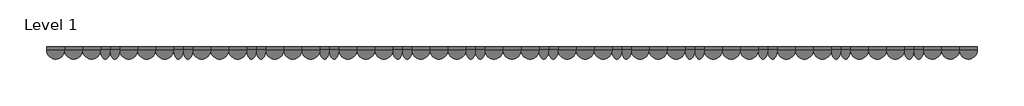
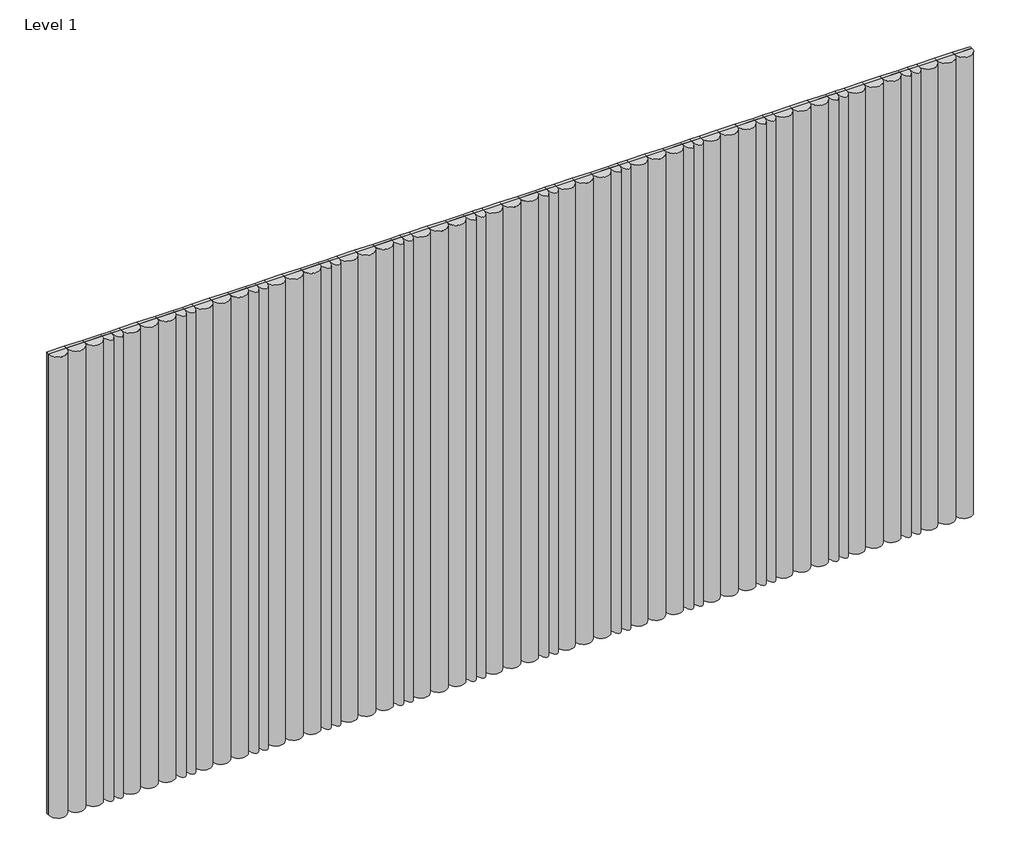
# One storey: 63 proxies.
"""IFC4 building model written with IfcOpenShell, lengths in millimetres."""

from ifc_helpers import new_model, si_unit, origin, place, context, project, spatial, transform, mapped, element, save
from components import specialty_equipment_105ff39a, specialty_equipment_0e2ca00c

model = new_model("IFC4")

# Units and contexts
model_context = context("Model", 3, world=origin())
ifc_project = project(units=[si_unit("LENGTHUNIT", "METRE", prefix="MILLI")], contexts=[model_context])

# Site, building, storey
site = spatial("IfcSite", under=ifc_project)
building = spatial("IfcBuilding", under=site)
storey = spatial("IfcBuildingStorey", under=building, Name="Level 1", Elevation=0.0)

# Proxies
placement = place(None, origin())
specialty_equipment_shape = specialty_equipment_105ff39a(model_context)
element("IfcBuildingElementProxy", 1, Name="Spinneybeck_ARO Plank 1 : A - 4 1/4 in (10.8 cm)", ObjectType="Spinneybeck_ARO Plank 1 : A - 4 1/4 in (10.8 cm)", at=placement, inside=storey, context=model_context, shape_type="MappedRepresentation", body=[
    mapped(specialty_equipment_shape, transform((-18900.5881386, 525.5178844, -8.8724664), x_axis=(1.0, 0.0, 0.0), y_axis=(0.0, 0.0, 1.0), z_axis=(0.0, -1.0, 0.0))),
])
element("IfcBuildingElementProxy", 2, Name="Spinneybeck_ARO Plank 1 : A - 4 1/4 in (10.8 cm)", ObjectType="Spinneybeck_ARO Plank 1 : A - 4 1/4 in (10.8 cm)", at=placement, inside=storey, context=model_context, shape_type="MappedRepresentation", body=[
    mapped(specialty_equipment_shape, transform((-18792.6381386, 525.5178844, -8.8724664), x_axis=(1.0, 0.0, 0.0), y_axis=(0.0, 0.0, 1.0), z_axis=(0.0, -1.0, 0.0))),
])
element("IfcBuildingElementProxy", 3, Name="Spinneybeck_ARO Plank 1 : A - 4 1/4 in (10.8 cm)", ObjectType="Spinneybeck_ARO Plank 1 : A - 4 1/4 in (10.8 cm)", at=placement, inside=storey, context=model_context, shape_type="MappedRepresentation", body=[
    mapped(specialty_equipment_shape, transform((-18684.6881386, 525.5178844, -8.8724664), x_axis=(1.0, 0.0, 0.0), y_axis=(0.0, 0.0, 1.0), z_axis=(0.0, -1.0, 0.0))),
])
element("IfcBuildingElementProxy", 4, Name="Spinneybeck_ARO Plank 1 : A - 4 1/4 in (10.8 cm)", ObjectType="Spinneybeck_ARO Plank 1 : A - 4 1/4 in (10.8 cm)", at=placement, inside=storey, context=model_context, shape_type="MappedRepresentation", body=[
    mapped(specialty_equipment_shape, transform((-18462.4381386, 525.5178844, -8.8724664), x_axis=(1.0, 0.0, 0.0), y_axis=(0.0, 0.0, 1.0), z_axis=(0.0, -1.0, 0.0))),
])
element("IfcBuildingElementProxy", 5, Name="Spinneybeck_ARO Plank 1 : A - 4 1/4 in (10.8 cm)", ObjectType="Spinneybeck_ARO Plank 1 : A - 4 1/4 in (10.8 cm)", at=placement, inside=storey, context=model_context, shape_type="MappedRepresentation", body=[
    mapped(specialty_equipment_shape, transform((-18354.4881386, 525.5178844, -8.8724664), x_axis=(1.0, 0.0, 0.0), y_axis=(0.0, 0.0, 1.0), z_axis=(0.0, -1.0, 0.0))),
])
element("IfcBuildingElementProxy", 6, Name="Spinneybeck_ARO Plank 1 : A - 4 1/4 in (10.8 cm)", ObjectType="Spinneybeck_ARO Plank 1 : A - 4 1/4 in (10.8 cm)", at=placement, inside=storey, context=model_context, shape_type="MappedRepresentation", body=[
    mapped(specialty_equipment_shape, transform((-18246.5381386, 525.5178844, -8.8724664), x_axis=(1.0, 0.0, 0.0), y_axis=(0.0, 0.0, 1.0), z_axis=(0.0, -1.0, 0.0))),
])
element("IfcBuildingElementProxy", 7, Name="Spinneybeck_ARO Plank 1 : A - 4 1/4 in (10.8 cm)", ObjectType="Spinneybeck_ARO Plank 1 : A - 4 1/4 in (10.8 cm)", at=placement, inside=storey, context=model_context, shape_type="MappedRepresentation", body=[
    mapped(specialty_equipment_shape, transform((-18024.2881386, 525.5178844, -8.8724664), x_axis=(1.0, 0.0, 0.0), y_axis=(0.0, 0.0, 1.0), z_axis=(0.0, -1.0, 0.0))),
])
element("IfcBuildingElementProxy", 8, Name="Spinneybeck_ARO Plank 1 : A - 4 1/4 in (10.8 cm)", ObjectType="Spinneybeck_ARO Plank 1 : A - 4 1/4 in (10.8 cm)", at=placement, inside=storey, context=model_context, shape_type="MappedRepresentation", body=[
    mapped(specialty_equipment_shape, transform((-17916.3381386, 525.5178844, -8.8724664), x_axis=(1.0, 0.0, 0.0), y_axis=(0.0, 0.0, 1.0), z_axis=(0.0, -1.0, 0.0))),
])
element("IfcBuildingElementProxy", 9, Name="Spinneybeck_ARO Plank 1 : A - 4 1/4 in (10.8 cm)", ObjectType="Spinneybeck_ARO Plank 1 : A - 4 1/4 in (10.8 cm)", at=placement, inside=storey, context=model_context, shape_type="MappedRepresentation", body=[
    mapped(specialty_equipment_shape, transform((-17808.3881386, 525.5178844, -8.8724664), x_axis=(1.0, 0.0, 0.0), y_axis=(0.0, 0.0, 1.0), z_axis=(0.0, -1.0, 0.0))),
])
element("IfcBuildingElementProxy", 10, Name="Spinneybeck_ARO Plank 1 : A - 4 1/4 in (10.8 cm)", ObjectType="Spinneybeck_ARO Plank 1 : A - 4 1/4 in (10.8 cm)", at=placement, inside=storey, context=model_context, shape_type="MappedRepresentation", body=[
    mapped(specialty_equipment_shape, transform((-17586.1381386, 525.5178844, -8.8724664), x_axis=(1.0, 0.0, 0.0), y_axis=(0.0, 0.0, 1.0), z_axis=(0.0, -1.0, 0.0))),
])
element("IfcBuildingElementProxy", 11, Name="Spinneybeck_ARO Plank 1 : A - 4 1/4 in (10.8 cm)", ObjectType="Spinneybeck_ARO Plank 1 : A - 4 1/4 in (10.8 cm)", at=placement, inside=storey, context=model_context, shape_type="MappedRepresentation", body=[
    mapped(specialty_equipment_shape, transform((-17478.1881386, 525.5178844, -8.8724664), x_axis=(1.0, 0.0, 0.0), y_axis=(0.0, 0.0, 1.0), z_axis=(0.0, -1.0, 0.0))),
])
element("IfcBuildingElementProxy", 12, Name="Spinneybeck_ARO Plank 1 : A - 4 1/4 in (10.8 cm)", ObjectType="Spinneybeck_ARO Plank 1 : A - 4 1/4 in (10.8 cm)", at=placement, inside=storey, context=model_context, shape_type="MappedRepresentation", body=[
    mapped(specialty_equipment_shape, transform((-17370.2381386, 525.5178844, -8.8724664), x_axis=(1.0, 0.0, 0.0), y_axis=(0.0, 0.0, 1.0), z_axis=(0.0, -1.0, 0.0))),
])
element("IfcBuildingElementProxy", 13, Name="Spinneybeck_ARO Plank 1 : A - 4 1/4 in (10.8 cm)", ObjectType="Spinneybeck_ARO Plank 1 : A - 4 1/4 in (10.8 cm)", at=placement, inside=storey, context=model_context, shape_type="MappedRepresentation", body=[
    mapped(specialty_equipment_shape, transform((-17147.9881386, 525.5178844, -8.8724664), x_axis=(1.0, 0.0, 0.0), y_axis=(0.0, 0.0, 1.0), z_axis=(0.0, -1.0, 0.0))),
])
element("IfcBuildingElementProxy", 14, Name="Spinneybeck_ARO Plank 1 : A - 4 1/4 in (10.8 cm)", ObjectType="Spinneybeck_ARO Plank 1 : A - 4 1/4 in (10.8 cm)", at=placement, inside=storey, context=model_context, shape_type="MappedRepresentation", body=[
    mapped(specialty_equipment_shape, transform((-17040.0381386, 525.5178844, -8.8724664), x_axis=(1.0, 0.0, 0.0), y_axis=(0.0, 0.0, 1.0), z_axis=(0.0, -1.0, 0.0))),
])
element("IfcBuildingElementProxy", 15, Name="Spinneybeck_ARO Plank 1 : A - 4 1/4 in (10.8 cm)", ObjectType="Spinneybeck_ARO Plank 1 : A - 4 1/4 in (10.8 cm)", at=placement, inside=storey, context=model_context, shape_type="MappedRepresentation", body=[
    mapped(specialty_equipment_shape, transform((-16932.0881386, 525.5178844, -8.8724664), x_axis=(1.0, 0.0, 0.0), y_axis=(0.0, 0.0, 1.0), z_axis=(0.0, -1.0, 0.0))),
])
element("IfcBuildingElementProxy", 16, Name="Spinneybeck_ARO Plank 1 : A - 4 1/4 in (10.8 cm)", ObjectType="Spinneybeck_ARO Plank 1 : A - 4 1/4 in (10.8 cm)", at=placement, inside=storey, context=model_context, shape_type="MappedRepresentation", body=[
    mapped(specialty_equipment_shape, transform((-16709.8381386, 525.5178844, -8.8724664), x_axis=(1.0, 0.0, 0.0), y_axis=(0.0, 0.0, 1.0), z_axis=(0.0, -1.0, 0.0))),
])
element("IfcBuildingElementProxy", 17, Name="Spinneybeck_ARO Plank 1 : A - 4 1/4 in (10.8 cm)", ObjectType="Spinneybeck_ARO Plank 1 : A - 4 1/4 in (10.8 cm)", at=placement, inside=storey, context=model_context, shape_type="MappedRepresentation", body=[
    mapped(specialty_equipment_shape, transform((-16601.8881386, 525.5178844, -8.8724664), x_axis=(1.0, 0.0, 0.0), y_axis=(0.0, 0.0, 1.0), z_axis=(0.0, -1.0, 0.0))),
])
element("IfcBuildingElementProxy", 18, Name="Spinneybeck_ARO Plank 1 : A - 4 1/4 in (10.8 cm)", ObjectType="Spinneybeck_ARO Plank 1 : A - 4 1/4 in (10.8 cm)", at=placement, inside=storey, context=model_context, shape_type="MappedRepresentation", body=[
    mapped(specialty_equipment_shape, transform((-16493.9381386, 525.5178844, -8.8724664), x_axis=(1.0, 0.0, 0.0), y_axis=(0.0, 0.0, 1.0), z_axis=(0.0, -1.0, 0.0))),
])
element("IfcBuildingElementProxy", 19, Name="Spinneybeck_ARO Plank 1 : A - 4 1/4 in (10.8 cm)", ObjectType="Spinneybeck_ARO Plank 1 : A - 4 1/4 in (10.8 cm)", at=placement, inside=storey, context=model_context, shape_type="MappedRepresentation", body=[
    mapped(specialty_equipment_shape, transform((-16271.6881386, 525.5178844, -8.8724664), x_axis=(1.0, 0.0, 0.0), y_axis=(0.0, 0.0, 1.0), z_axis=(0.0, -1.0, 0.0))),
])
element("IfcBuildingElementProxy", 20, Name="Spinneybeck_ARO Plank 1 : A - 4 1/4 in (10.8 cm)", ObjectType="Spinneybeck_ARO Plank 1 : A - 4 1/4 in (10.8 cm)", at=placement, inside=storey, context=model_context, shape_type="MappedRepresentation", body=[
    mapped(specialty_equipment_shape, transform((-16163.7381386, 525.5178844, -8.8724664), x_axis=(1.0, 0.0, 0.0), y_axis=(0.0, 0.0, 1.0), z_axis=(0.0, -1.0, 0.0))),
])
element("IfcBuildingElementProxy", 21, Name="Spinneybeck_ARO Plank 1 : A - 4 1/4 in (10.8 cm)", ObjectType="Spinneybeck_ARO Plank 1 : A - 4 1/4 in (10.8 cm)", at=placement, inside=storey, context=model_context, shape_type="MappedRepresentation", body=[
    mapped(specialty_equipment_shape, transform((-16055.7881386, 525.5178844, -8.8724664), x_axis=(1.0, 0.0, 0.0), y_axis=(0.0, 0.0, 1.0), z_axis=(0.0, -1.0, 0.0))),
])
element("IfcBuildingElementProxy", 22, Name="Spinneybeck_ARO Plank 1 : A - 4 1/4 in (10.8 cm)", ObjectType="Spinneybeck_ARO Plank 1 : A - 4 1/4 in (10.8 cm)", at=placement, inside=storey, context=model_context, shape_type="MappedRepresentation", body=[
    mapped(specialty_equipment_shape, transform((-15833.5381386, 525.5178844, -8.8724664), x_axis=(1.0, 0.0, 0.0), y_axis=(0.0, 0.0, 1.0), z_axis=(0.0, -1.0, 0.0))),
])
element("IfcBuildingElementProxy", 23, Name="Spinneybeck_ARO Plank 1 : A - 4 1/4 in (10.8 cm)", ObjectType="Spinneybeck_ARO Plank 1 : A - 4 1/4 in (10.8 cm)", at=placement, inside=storey, context=model_context, shape_type="MappedRepresentation", body=[
    mapped(specialty_equipment_shape, transform((-15725.5881386, 525.5178844, -8.8724664), x_axis=(1.0, 0.0, 0.0), y_axis=(0.0, 0.0, 1.0), z_axis=(0.0, -1.0, 0.0))),
])
element("IfcBuildingElementProxy", 24, Name="Spinneybeck_ARO Plank 1 : A - 4 1/4 in (10.8 cm)", ObjectType="Spinneybeck_ARO Plank 1 : A - 4 1/4 in (10.8 cm)", at=placement, inside=storey, context=model_context, shape_type="MappedRepresentation", body=[
    mapped(specialty_equipment_shape, transform((-15617.6381386, 525.5178844, -8.8724664), x_axis=(1.0, 0.0, 0.0), y_axis=(0.0, 0.0, 1.0), z_axis=(0.0, -1.0, 0.0))),
])
element("IfcBuildingElementProxy", 25, Name="Spinneybeck_ARO Plank 1 : A - 4 1/4 in (10.8 cm)", ObjectType="Spinneybeck_ARO Plank 1 : A - 4 1/4 in (10.8 cm)", at=placement, inside=storey, context=model_context, shape_type="MappedRepresentation", body=[
    mapped(specialty_equipment_shape, transform((-15395.3881386, 525.5178844, -8.8724664), x_axis=(1.0, 0.0, 0.0), y_axis=(0.0, 0.0, 1.0), z_axis=(0.0, -1.0, 0.0))),
])
element("IfcBuildingElementProxy", 26, Name="Spinneybeck_ARO Plank 1 : A - 4 1/4 in (10.8 cm)", ObjectType="Spinneybeck_ARO Plank 1 : A - 4 1/4 in (10.8 cm)", at=placement, inside=storey, context=model_context, shape_type="MappedRepresentation", body=[
    mapped(specialty_equipment_shape, transform((-15287.4381386, 525.5178844, -8.8724664), x_axis=(1.0, 0.0, 0.0), y_axis=(0.0, 0.0, 1.0), z_axis=(0.0, -1.0, 0.0))),
])
element("IfcBuildingElementProxy", 27, Name="Spinneybeck_ARO Plank 1 : A - 4 1/4 in (10.8 cm)", ObjectType="Spinneybeck_ARO Plank 1 : A - 4 1/4 in (10.8 cm)", at=placement, inside=storey, context=model_context, shape_type="MappedRepresentation", body=[
    mapped(specialty_equipment_shape, transform((-15179.4881386, 525.5178844, -8.8724664), x_axis=(1.0, 0.0, 0.0), y_axis=(0.0, 0.0, 1.0), z_axis=(0.0, -1.0, 0.0))),
])
element("IfcBuildingElementProxy", 28, Name="Spinneybeck_ARO Plank 1 : A - 4 1/4 in (10.8 cm)", ObjectType="Spinneybeck_ARO Plank 1 : A - 4 1/4 in (10.8 cm)", at=placement, inside=storey, context=model_context, shape_type="MappedRepresentation", body=[
    mapped(specialty_equipment_shape, transform((-14957.2381386, 525.5178844, -8.8724664), x_axis=(1.0, 0.0, 0.0), y_axis=(0.0, 0.0, 1.0), z_axis=(0.0, -1.0, 0.0))),
])
element("IfcBuildingElementProxy", 29, Name="Spinneybeck_ARO Plank 1 : A - 4 1/4 in (10.8 cm)", ObjectType="Spinneybeck_ARO Plank 1 : A - 4 1/4 in (10.8 cm)", at=placement, inside=storey, context=model_context, shape_type="MappedRepresentation", body=[
    mapped(specialty_equipment_shape, transform((-14849.2881386, 525.5178844, -8.8724664), x_axis=(1.0, 0.0, 0.0), y_axis=(0.0, 0.0, 1.0), z_axis=(0.0, -1.0, 0.0))),
])
element("IfcBuildingElementProxy", 30, Name="Spinneybeck_ARO Plank 1 : A - 4 1/4 in (10.8 cm)", ObjectType="Spinneybeck_ARO Plank 1 : A - 4 1/4 in (10.8 cm)", at=placement, inside=storey, context=model_context, shape_type="MappedRepresentation", body=[
    mapped(specialty_equipment_shape, transform((-14741.3381386, 525.5178844, -8.8724664), x_axis=(1.0, 0.0, 0.0), y_axis=(0.0, 0.0, 1.0), z_axis=(0.0, -1.0, 0.0))),
])
element("IfcBuildingElementProxy", 31, Name="Spinneybeck_ARO Plank 1 : A - 4 1/4 in (10.8 cm)", ObjectType="Spinneybeck_ARO Plank 1 : A - 4 1/4 in (10.8 cm)", at=placement, inside=storey, context=model_context, shape_type="MappedRepresentation", body=[
    mapped(specialty_equipment_shape, transform((-14519.0881386, 525.5178844, -8.8724664), x_axis=(1.0, 0.0, 0.0), y_axis=(0.0, 0.0, 1.0), z_axis=(0.0, -1.0, 0.0))),
])
element("IfcBuildingElementProxy", 32, Name="Spinneybeck_ARO Plank 1 : A - 4 1/4 in (10.8 cm)", ObjectType="Spinneybeck_ARO Plank 1 : A - 4 1/4 in (10.8 cm)", at=placement, inside=storey, context=model_context, shape_type="MappedRepresentation", body=[
    mapped(specialty_equipment_shape, transform((-14411.1381386, 525.5178844, -8.8724664), x_axis=(1.0, 0.0, 0.0), y_axis=(0.0, 0.0, 1.0), z_axis=(0.0, -1.0, 0.0))),
])
element("IfcBuildingElementProxy", 33, Name="Spinneybeck_ARO Plank 1 : A - 4 1/4 in (10.8 cm)", ObjectType="Spinneybeck_ARO Plank 1 : A - 4 1/4 in (10.8 cm)", at=placement, inside=storey, context=model_context, shape_type="MappedRepresentation", body=[
    mapped(specialty_equipment_shape, transform((-14303.1881386, 525.5178844, -8.8724664), x_axis=(1.0, 0.0, 0.0), y_axis=(0.0, 0.0, 1.0), z_axis=(0.0, -1.0, 0.0))),
])
element("IfcBuildingElementProxy", 34, Name="Spinneybeck_ARO Plank 1 : A - 4 1/4 in (10.8 cm)", ObjectType="Spinneybeck_ARO Plank 1 : A - 4 1/4 in (10.8 cm)", at=placement, inside=storey, context=model_context, shape_type="MappedRepresentation", body=[
    mapped(specialty_equipment_shape, transform((-14080.9381386, 525.5178844, -8.8724664), x_axis=(1.0, 0.0, 0.0), y_axis=(0.0, 0.0, 1.0), z_axis=(0.0, -1.0, 0.0))),
])
element("IfcBuildingElementProxy", 35, Name="Spinneybeck_ARO Plank 1 : A - 4 1/4 in (10.8 cm)", ObjectType="Spinneybeck_ARO Plank 1 : A - 4 1/4 in (10.8 cm)", at=placement, inside=storey, context=model_context, shape_type="MappedRepresentation", body=[
    mapped(specialty_equipment_shape, transform((-13972.9881386, 525.5178844, -8.8724664), x_axis=(1.0, 0.0, 0.0), y_axis=(0.0, 0.0, 1.0), z_axis=(0.0, -1.0, 0.0))),
])
element("IfcBuildingElementProxy", 36, Name="Spinneybeck_ARO Plank 1 : A - 4 1/4 in (10.8 cm)", ObjectType="Spinneybeck_ARO Plank 1 : A - 4 1/4 in (10.8 cm)", at=placement, inside=storey, context=model_context, shape_type="MappedRepresentation", body=[
    mapped(specialty_equipment_shape, transform((-13865.0381386, 525.5178844, -8.8724664), x_axis=(1.0, 0.0, 0.0), y_axis=(0.0, 0.0, 1.0), z_axis=(0.0, -1.0, 0.0))),
])
element("IfcBuildingElementProxy", 37, Name="Spinneybeck_ARO Plank 1 : A - 4 1/4 in (10.8 cm)", ObjectType="Spinneybeck_ARO Plank 1 : A - 4 1/4 in (10.8 cm)", at=placement, inside=storey, context=model_context, shape_type="MappedRepresentation", body=[
    mapped(specialty_equipment_shape, transform((-13642.7881386, 525.5178844, -8.8724664), x_axis=(1.0, 0.0, 0.0), y_axis=(0.0, 0.0, 1.0), z_axis=(0.0, -1.0, 0.0))),
])
element("IfcBuildingElementProxy", 38, Name="Spinneybeck_ARO Plank 1 : A - 4 1/4 in (10.8 cm)", ObjectType="Spinneybeck_ARO Plank 1 : A - 4 1/4 in (10.8 cm)", at=placement, inside=storey, context=model_context, shape_type="MappedRepresentation", body=[
    mapped(specialty_equipment_shape, transform((-13534.8381386, 525.5178844, -8.8724664), x_axis=(1.0, 0.0, 0.0), y_axis=(0.0, 0.0, 1.0), z_axis=(0.0, -1.0, 0.0))),
])
element("IfcBuildingElementProxy", 39, Name="Spinneybeck_ARO Plank 1 : A - 4 1/4 in (10.8 cm)", ObjectType="Spinneybeck_ARO Plank 1 : A - 4 1/4 in (10.8 cm)", at=placement, inside=storey, context=model_context, shape_type="MappedRepresentation", body=[
    mapped(specialty_equipment_shape, transform((-13426.8881386, 525.5178844, -8.8724664), x_axis=(1.0, 0.0, 0.0), y_axis=(0.0, 0.0, 1.0), z_axis=(0.0, -1.0, 0.0))),
])
specialty_equipment_2_shape = specialty_equipment_0e2ca00c(model_context)
element("IfcBuildingElementProxy", 40, Name="Spinneybeck_ARO Plank 1 : B - 2 1/4 in (5.7 cm)", ObjectType="Spinneybeck_ARO Plank 1 : B - 2 1/4 in (5.7 cm)", at=placement, inside=storey, context=model_context, shape_type="MappedRepresentation", body=[
    mapped(specialty_equipment_2_shape, transform((-18602.1381386, 525.5178844, -8.8724664), x_axis=(1.0, 0.0, 0.0), y_axis=(0.0, 0.0, 1.0), z_axis=(0.0, -1.0, 0.0))),
])
element("IfcBuildingElementProxy", 41, Name="Spinneybeck_ARO Plank 1 : B - 2 1/4 in (5.7 cm)", ObjectType="Spinneybeck_ARO Plank 1 : B - 2 1/4 in (5.7 cm)", at=placement, inside=storey, context=model_context, shape_type="MappedRepresentation", body=[
    mapped(specialty_equipment_2_shape, transform((-18544.9881386, 525.5178844, -8.8724664), x_axis=(1.0, 0.0, 0.0), y_axis=(0.0, 0.0, 1.0), z_axis=(0.0, -1.0, 0.0))),
])
element("IfcBuildingElementProxy", 42, Name="Spinneybeck_ARO Plank 1 : B - 2 1/4 in (5.7 cm)", ObjectType="Spinneybeck_ARO Plank 1 : B - 2 1/4 in (5.7 cm)", at=placement, inside=storey, context=model_context, shape_type="MappedRepresentation", body=[
    mapped(specialty_equipment_2_shape, transform((-18163.9881386, 525.5178844, -8.8724664), x_axis=(1.0, 0.0, 0.0), y_axis=(0.0, 0.0, 1.0), z_axis=(0.0, -1.0, 0.0))),
])
element("IfcBuildingElementProxy", 43, Name="Spinneybeck_ARO Plank 1 : B - 2 1/4 in (5.7 cm)", ObjectType="Spinneybeck_ARO Plank 1 : B - 2 1/4 in (5.7 cm)", at=placement, inside=storey, context=model_context, shape_type="MappedRepresentation", body=[
    mapped(specialty_equipment_2_shape, transform((-18106.8381386, 525.5178844, -8.8724664), x_axis=(1.0, 0.0, 0.0), y_axis=(0.0, 0.0, 1.0), z_axis=(0.0, -1.0, 0.0))),
])
element("IfcBuildingElementProxy", 44, Name="Spinneybeck_ARO Plank 1 : B - 2 1/4 in (5.7 cm)", ObjectType="Spinneybeck_ARO Plank 1 : B - 2 1/4 in (5.7 cm)", at=placement, inside=storey, context=model_context, shape_type="MappedRepresentation", body=[
    mapped(specialty_equipment_2_shape, transform((-17725.8381386, 525.5178844, -8.8724664), x_axis=(1.0, 0.0, 0.0), y_axis=(0.0, 0.0, 1.0), z_axis=(0.0, -1.0, 0.0))),
])
element("IfcBuildingElementProxy", 45, Name="Spinneybeck_ARO Plank 1 : B - 2 1/4 in (5.7 cm)", ObjectType="Spinneybeck_ARO Plank 1 : B - 2 1/4 in (5.7 cm)", at=placement, inside=storey, context=model_context, shape_type="MappedRepresentation", body=[
    mapped(specialty_equipment_2_shape, transform((-17668.6881386, 525.5178844, -8.8724664), x_axis=(1.0, 0.0, 0.0), y_axis=(0.0, 0.0, 1.0), z_axis=(0.0, -1.0, 0.0))),
])
element("IfcBuildingElementProxy", 46, Name="Spinneybeck_ARO Plank 1 : B - 2 1/4 in (5.7 cm)", ObjectType="Spinneybeck_ARO Plank 1 : B - 2 1/4 in (5.7 cm)", at=placement, inside=storey, context=model_context, shape_type="MappedRepresentation", body=[
    mapped(specialty_equipment_2_shape, transform((-17287.6881386, 525.5178844, -8.8724664), x_axis=(1.0, 0.0, 0.0), y_axis=(0.0, 0.0, 1.0), z_axis=(0.0, -1.0, 0.0))),
])
element("IfcBuildingElementProxy", 47, Name="Spinneybeck_ARO Plank 1 : B - 2 1/4 in (5.7 cm)", ObjectType="Spinneybeck_ARO Plank 1 : B - 2 1/4 in (5.7 cm)", at=placement, inside=storey, context=model_context, shape_type="MappedRepresentation", body=[
    mapped(specialty_equipment_2_shape, transform((-17230.5381386, 525.5178844, -8.8724664), x_axis=(1.0, 0.0, 0.0), y_axis=(0.0, 0.0, 1.0), z_axis=(0.0, -1.0, 0.0))),
])
element("IfcBuildingElementProxy", 48, Name="Spinneybeck_ARO Plank 1 : B - 2 1/4 in (5.7 cm)", ObjectType="Spinneybeck_ARO Plank 1 : B - 2 1/4 in (5.7 cm)", at=placement, inside=storey, context=model_context, shape_type="MappedRepresentation", body=[
    mapped(specialty_equipment_2_shape, transform((-16849.5381386, 525.5178844, -8.8724664), x_axis=(1.0, 0.0, 0.0), y_axis=(0.0, 0.0, 1.0), z_axis=(0.0, -1.0, 0.0))),
])
element("IfcBuildingElementProxy", 49, Name="Spinneybeck_ARO Plank 1 : B - 2 1/4 in (5.7 cm)", ObjectType="Spinneybeck_ARO Plank 1 : B - 2 1/4 in (5.7 cm)", at=placement, inside=storey, context=model_context, shape_type="MappedRepresentation", body=[
    mapped(specialty_equipment_2_shape, transform((-16792.3881386, 525.5178844, -8.8724664), x_axis=(1.0, 0.0, 0.0), y_axis=(0.0, 0.0, 1.0), z_axis=(0.0, -1.0, 0.0))),
])
element("IfcBuildingElementProxy", 50, Name="Spinneybeck_ARO Plank 1 : B - 2 1/4 in (5.7 cm)", ObjectType="Spinneybeck_ARO Plank 1 : B - 2 1/4 in (5.7 cm)", at=placement, inside=storey, context=model_context, shape_type="MappedRepresentation", body=[
    mapped(specialty_equipment_2_shape, transform((-16411.3881386, 525.5178844, -8.8724664), x_axis=(1.0, 0.0, 0.0), y_axis=(0.0, 0.0, 1.0), z_axis=(0.0, -1.0, 0.0))),
])
element("IfcBuildingElementProxy", 51, Name="Spinneybeck_ARO Plank 1 : B - 2 1/4 in (5.7 cm)", ObjectType="Spinneybeck_ARO Plank 1 : B - 2 1/4 in (5.7 cm)", at=placement, inside=storey, context=model_context, shape_type="MappedRepresentation", body=[
    mapped(specialty_equipment_2_shape, transform((-16354.2381386, 525.5178844, -8.8724664), x_axis=(1.0, 0.0, 0.0), y_axis=(0.0, 0.0, 1.0), z_axis=(0.0, -1.0, 0.0))),
])
element("IfcBuildingElementProxy", 52, Name="Spinneybeck_ARO Plank 1 : B - 2 1/4 in (5.7 cm)", ObjectType="Spinneybeck_ARO Plank 1 : B - 2 1/4 in (5.7 cm)", at=placement, inside=storey, context=model_context, shape_type="MappedRepresentation", body=[
    mapped(specialty_equipment_2_shape, transform((-15973.2381386, 525.5178844, -8.8724664), x_axis=(1.0, 0.0, 0.0), y_axis=(0.0, 0.0, 1.0), z_axis=(0.0, -1.0, 0.0))),
])
element("IfcBuildingElementProxy", 53, Name="Spinneybeck_ARO Plank 1 : B - 2 1/4 in (5.7 cm)", ObjectType="Spinneybeck_ARO Plank 1 : B - 2 1/4 in (5.7 cm)", at=placement, inside=storey, context=model_context, shape_type="MappedRepresentation", body=[
    mapped(specialty_equipment_2_shape, transform((-15916.0881386, 525.5178844, -8.8724664), x_axis=(1.0, 0.0, 0.0), y_axis=(0.0, 0.0, 1.0), z_axis=(0.0, -1.0, 0.0))),
])
element("IfcBuildingElementProxy", 54, Name="Spinneybeck_ARO Plank 1 : B - 2 1/4 in (5.7 cm)", ObjectType="Spinneybeck_ARO Plank 1 : B - 2 1/4 in (5.7 cm)", at=placement, inside=storey, context=model_context, shape_type="MappedRepresentation", body=[
    mapped(specialty_equipment_2_shape, transform((-15535.0881386, 525.5178844, -8.8724664), x_axis=(1.0, 0.0, 0.0), y_axis=(0.0, 0.0, 1.0), z_axis=(0.0, -1.0, 0.0))),
])
element("IfcBuildingElementProxy", 55, Name="Spinneybeck_ARO Plank 1 : B - 2 1/4 in (5.7 cm)", ObjectType="Spinneybeck_ARO Plank 1 : B - 2 1/4 in (5.7 cm)", at=placement, inside=storey, context=model_context, shape_type="MappedRepresentation", body=[
    mapped(specialty_equipment_2_shape, transform((-15477.9381386, 525.5178844, -8.8724664), x_axis=(1.0, 0.0, 0.0), y_axis=(0.0, 0.0, 1.0), z_axis=(0.0, -1.0, 0.0))),
])
element("IfcBuildingElementProxy", 56, Name="Spinneybeck_ARO Plank 1 : B - 2 1/4 in (5.7 cm)", ObjectType="Spinneybeck_ARO Plank 1 : B - 2 1/4 in (5.7 cm)", at=placement, inside=storey, context=model_context, shape_type="MappedRepresentation", body=[
    mapped(specialty_equipment_2_shape, transform((-15096.9381386, 525.5178844, -8.8724664), x_axis=(1.0, 0.0, 0.0), y_axis=(0.0, 0.0, 1.0), z_axis=(0.0, -1.0, 0.0))),
])
element("IfcBuildingElementProxy", 57, Name="Spinneybeck_ARO Plank 1 : B - 2 1/4 in (5.7 cm)", ObjectType="Spinneybeck_ARO Plank 1 : B - 2 1/4 in (5.7 cm)", at=placement, inside=storey, context=model_context, shape_type="MappedRepresentation", body=[
    mapped(specialty_equipment_2_shape, transform((-15039.7881386, 525.5178844, -8.8724664), x_axis=(1.0, 0.0, 0.0), y_axis=(0.0, 0.0, 1.0), z_axis=(0.0, -1.0, 0.0))),
])
element("IfcBuildingElementProxy", 58, Name="Spinneybeck_ARO Plank 1 : B - 2 1/4 in (5.7 cm)", ObjectType="Spinneybeck_ARO Plank 1 : B - 2 1/4 in (5.7 cm)", at=placement, inside=storey, context=model_context, shape_type="MappedRepresentation", body=[
    mapped(specialty_equipment_2_shape, transform((-14658.7881386, 525.5178844, -8.8724664), x_axis=(1.0, 0.0, 0.0), y_axis=(0.0, 0.0, 1.0), z_axis=(0.0, -1.0, 0.0))),
])
element("IfcBuildingElementProxy", 59, Name="Spinneybeck_ARO Plank 1 : B - 2 1/4 in (5.7 cm)", ObjectType="Spinneybeck_ARO Plank 1 : B - 2 1/4 in (5.7 cm)", at=placement, inside=storey, context=model_context, shape_type="MappedRepresentation", body=[
    mapped(specialty_equipment_2_shape, transform((-14601.6381386, 525.5178844, -8.8724664), x_axis=(1.0, 0.0, 0.0), y_axis=(0.0, 0.0, 1.0), z_axis=(0.0, -1.0, 0.0))),
])
element("IfcBuildingElementProxy", 60, Name="Spinneybeck_ARO Plank 1 : B - 2 1/4 in (5.7 cm)", ObjectType="Spinneybeck_ARO Plank 1 : B - 2 1/4 in (5.7 cm)", at=placement, inside=storey, context=model_context, shape_type="MappedRepresentation", body=[
    mapped(specialty_equipment_2_shape, transform((-14220.6381386, 525.5178844, -8.8724664), x_axis=(1.0, 0.0, 0.0), y_axis=(0.0, 0.0, 1.0), z_axis=(0.0, -1.0, 0.0))),
])
element("IfcBuildingElementProxy", 61, Name="Spinneybeck_ARO Plank 1 : B - 2 1/4 in (5.7 cm)", ObjectType="Spinneybeck_ARO Plank 1 : B - 2 1/4 in (5.7 cm)", at=placement, inside=storey, context=model_context, shape_type="MappedRepresentation", body=[
    mapped(specialty_equipment_2_shape, transform((-14163.4881386, 525.5178844, -8.8724664), x_axis=(1.0, 0.0, 0.0), y_axis=(0.0, 0.0, 1.0), z_axis=(0.0, -1.0, 0.0))),
])
element("IfcBuildingElementProxy", 62, Name="Spinneybeck_ARO Plank 1 : B - 2 1/4 in (5.7 cm)", ObjectType="Spinneybeck_ARO Plank 1 : B - 2 1/4 in (5.7 cm)", at=placement, inside=storey, context=model_context, shape_type="MappedRepresentation", body=[
    mapped(specialty_equipment_2_shape, transform((-13782.4881386, 525.5178844, -8.8724664), x_axis=(1.0, 0.0, 0.0), y_axis=(0.0, 0.0, 1.0), z_axis=(0.0, -1.0, 0.0))),
])
element("IfcBuildingElementProxy", 63, Name="Spinneybeck_ARO Plank 1 : B - 2 1/4 in (5.7 cm)", ObjectType="Spinneybeck_ARO Plank 1 : B - 2 1/4 in (5.7 cm)", at=placement, inside=storey, context=model_context, shape_type="MappedRepresentation", body=[
    mapped(specialty_equipment_2_shape, transform((-13725.3381386, 525.5178844, -8.8724664), x_axis=(1.0, 0.0, 0.0), y_axis=(0.0, 0.0, 1.0), z_axis=(0.0, -1.0, 0.0))),
])

save(model, "model.ifc")
